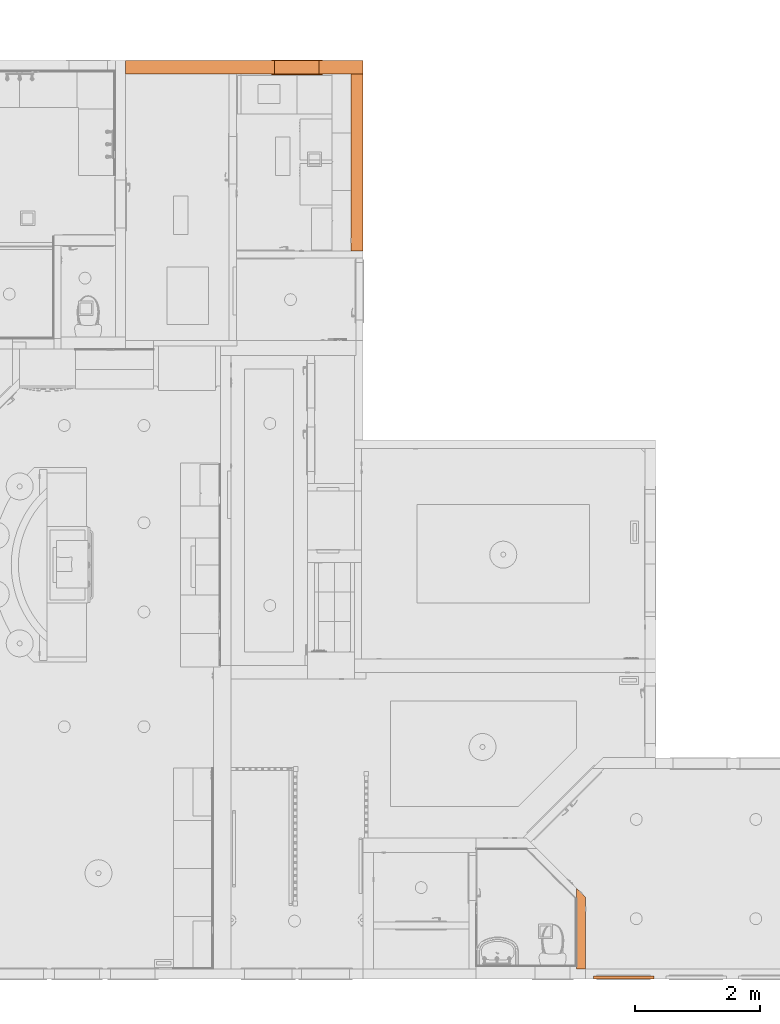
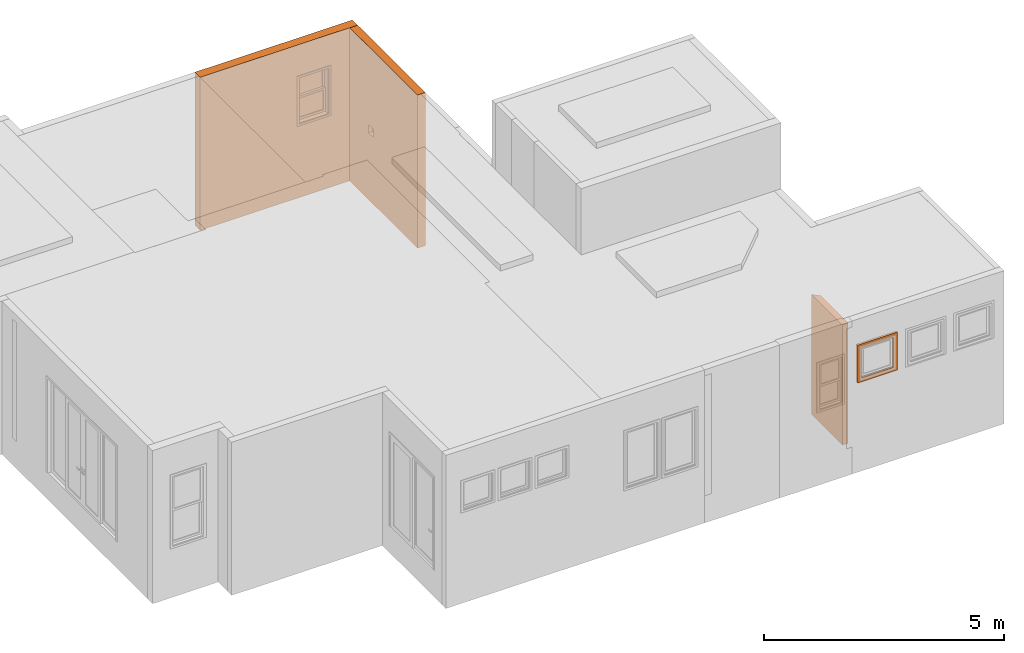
# One storey, part 98 of 103: 5 proxies.
"""IFC2X3 building model written with IfcOpenShell, lengths in inches."""

from ifc_helpers import new_model, entity, si_unit, converted_unit, derived_unit, money_unit, direction, frame, origin_with_axes, place, context, subcontext, project, spatial, faceted_brep, material, type_object, element, save


model = new_model("IFC2X3")

# Units and contexts
model_context = context("Model", 3, precision=0.00039370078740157, world=origin_with_axes(), true_north=direction((0.0, 1.0)))
plan_context = context("Plan", 3, precision=0.00039370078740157, world=origin_with_axes(), true_north=direction((0.0, 1.0)))
body_context = subcontext(model_context, "Body", "Model", "MODEL_VIEW")
ifc_project = project(units=[converted_unit("LENGTHUNIT", "INCH", entity("IfcPositiveLengthMeasure", 0.0254), si_unit("LENGTHUNIT", "METRE"), dimensions=[1, 0, 0, 0, 0, 0, 0]), converted_unit("AREAUNIT", "SQUARE_FOOT", entity("IfcPositiveLengthMeasure", 0.09290304), si_unit("AREAUNIT", "SQUARE_METRE"), dimensions=[2, 0, 0, 0, 0, 0, 0]), si_unit("PLANEANGLEUNIT", "RADIAN"), si_unit("SOLIDANGLEUNIT", "STERADIAN"), money_unit("USD"), converted_unit("TIMEUNIT", "Year", entity("IfcTimeMeasure", 31557600.0), si_unit("TIMEUNIT", "SECOND"), dimensions=[0, 0, 1, 0, 0, 0, 0]), si_unit("MASSUNIT", "GRAM", prefix="KILO"), si_unit("THERMODYNAMICTEMPERATUREUNIT", "DEGREE_CELSIUS"), si_unit("LUMINOUSINTENSITYUNIT", "LUMEN"), si_unit("ENERGYUNIT", "JOULE", prefix="MEGA"), derived_unit("SPECIFICHEATCAPACITYUNIT", [(si_unit("ENERGYUNIT", "JOULE"), 1), (si_unit("MASSUNIT", "GRAM", prefix="KILO"), -1), (si_unit("THERMODYNAMICTEMPERATUREUNIT", "KELVIN"), -1)])], contexts=[model_context, plan_context])

# Site, building, storey
site_placement = place(None, origin_with_axes())
site = spatial("IfcSite", under=ifc_project, at=site_placement, Name="Site", CompositionType="ELEMENT")
building_placement = place(site_placement, origin_with_axes())
building = spatial("IfcBuilding", under=site, at=building_placement, Name="Building", CompositionType="ELEMENT")
storey_placement = place(building_placement, frame((0.0, 0.0, 127.9999999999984), z_axis=(0.0, 0.0, 1.0), x_axis=(1.0, 0.0, 0.0)))
storey = spatial("IfcBuildingStorey", under=building, at=storey_placement, Name="Second Floor", CompositionType="ELEMENT", Elevation=128.0)

# Proxies
ifc_material = material(Name="Generic - Structural")
building_element_proxy_type_1 = type_object("IfcBuildingElementProxyType", Name="Generic - Structural 2\"", PredefinedType="NOTDEFINED")
proxy_1_placement = place(storey_placement, frame((426.9999994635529, 1.999999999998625, 61.99999999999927), z_axis=(0.0, 0.0, 1.0), x_axis=(-1.0, 0.0, 0.0)))
element("IfcBuildingElementProxy", 1, at=proxy_1_placement, inside=storey, type_object=building_element_proxy_type_1, material=ifc_material, Name="SW - 076", context=body_context, shape_type="Brep", body=[
    faceted_brep([(37.99999946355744, 1.999999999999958, 37.99999999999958), (37.99999946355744, 1.999999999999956, 0.0), (0.0, 1.999999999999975, 0.0), (0.0, 1.999999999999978, 37.99999999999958), (33.99999999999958, 1.999999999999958, 3.999999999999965), (33.99999999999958, 1.99999999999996, 33.99999999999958), (3.99999999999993, 1.999999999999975, 33.99999999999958), (3.99999999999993, 1.999999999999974, 3.999999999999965), (37.99999946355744, 0.0, 37.99999999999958), (37.99999946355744, 0.0, 0.0), (0.0, 0.0, 0.0), (0.0, 0.0, 37.99999999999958), (33.99999999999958, 0.0, 3.999999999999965), (33.99999999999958, 0.0, 33.99999999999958), (3.99999999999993, 0.0, 33.99999999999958), (3.99999999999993, 0.0, 3.999999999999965)], [[[0, 1, 2, 3], [4, 5, 6, 7]], [[8, 9, 1, 0]], [[1, 9, 10, 2]], [[11, 3, 2, 10]], [[8, 0, 3, 11]], [[12, 13, 5, 4]], [[13, 14, 6, 5]], [[14, 15, 7, 6]], [[15, 12, 4, 7]], [[9, 8, 11, 10], [12, 15, 14, 13]]]),
])
building_element_proxy_type_2 = type_object("IfcBuildingElementProxyType", Name="Generic - Structural 7 1/2\"", PredefinedType="NOTDEFINED")
proxy_2_placement = place(storey_placement, frame((236.9999999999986, 568.0000000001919, -26.99999999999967), z_axis=(0.0, 0.0, 1.0), x_axis=(0.0, -1.0, 0.0)))
element("IfcBuildingElementProxy", 2, at=proxy_2_placement, inside=storey, type_object=building_element_proxy_type_2, material=ifc_material, Name="SW - 130", context=body_context, shape_type="Brep", body=[
    faceted_brep([(111.0000000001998, 7.500000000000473, 152.9999999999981), (111.0000000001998, 0.0, 152.9999999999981), (111.0000000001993, 0.0, 146.9999999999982), (111.0000000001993, 0.0, 26.99999999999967), (111.0000000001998, 0.0, 0.0), (111.0000000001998, 7.500000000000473, 0.0), (111.0000000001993, 7.499999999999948, 26.99999999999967), (111.0000000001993, 7.499999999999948, 146.9999999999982), (0.0, 7.499999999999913, 152.9999999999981), (0.0, 0.0, 152.9999999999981), (0.0, 0.0, 0.0), (30.99999999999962, 0.0, 66.99999999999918), (30.99999999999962, 0.0, 74.99999999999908), (38.99999999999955, 0.0, 74.99999999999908), (38.99999999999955, 0.0, 66.99999999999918), (0.0, 7.499999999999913, 0.0), (30.99999999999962, 2.999999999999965, 66.99999999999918), (30.99999999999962, 2.999999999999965, 74.99999999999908), (38.99999999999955, 2.999999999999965, 74.99999999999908), (38.99999999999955, 2.999999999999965, 66.99999999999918)], [[[0, 1, 2, 3, 4, 5, 6, 7]], [[1, 0, 8, 9]], [[10, 4, 3, 2, 1, 9], [11, 12, 13, 14]], [[5, 4, 10, 15]], [[8, 0, 7, 6, 5, 15]], [[8, 15, 10, 9]], [[11, 16, 17, 12]], [[12, 17, 18, 13]], [[13, 18, 19, 14]], [[14, 19, 16, 11]], [[18, 17, 16, 19]]]),
])
building_element_proxy_type_3 = type_object("IfcBuildingElementProxyType", Name="Generic - Structural 8 1/2\"", PredefinedType="NOTDEFINED")
proxy_3_placement = place(storey_placement, frame((95.50000608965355, 568.0000000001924, -26.99999999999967), z_axis=(0.0, 0.0, 1.0), x_axis=(1.0, 0.0, 0.0)))
element("IfcBuildingElementProxy", 3, at=proxy_3_placement, inside=storey, type_object=building_element_proxy_type_3, material=ifc_material, Name="SW - 129", context=body_context, shape_type="Brep", body=[
    faceted_brep([(-6.08965361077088e-06, 0.0, 26.99999999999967), (0.0, 0.0, 0.0), (148.999993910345, 0.0, 0.0), (148.999993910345, 0.0, 152.9999999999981), (0.0, 0.0, 152.9999999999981), (-6.08965361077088e-06, 0.0, 146.4999999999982), (93.49999745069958, 0.0, 73.9999999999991), (93.49999745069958, 0.0, 119.9999999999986), (121.4999974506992, 0.0, 119.9999999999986), (121.4999974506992, 0.0, 73.9999999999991), (0.0, 8.499999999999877, 152.9999999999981), (0.0, 8.499999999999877, 0.0), (148.999993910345, 8.499999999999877, 0.0), (148.999993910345, 8.499999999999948, 152.9999999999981), (93.49999745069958, 8.499999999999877, 73.9999999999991), (93.49999745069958, 8.499999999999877, 119.9999999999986), (121.4999974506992, 8.499999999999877, 119.9999999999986), (121.4999974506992, 8.499999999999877, 73.9999999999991)], [[[0, 1, 2, 3, 4, 5], [6, 7, 8, 9]], [[5, 4, 10, 11, 1, 0]], [[12, 2, 1, 11]], [[3, 2, 12, 13]], [[3, 13, 10, 4]], [[14, 15, 7, 6]], [[15, 16, 8, 7]], [[16, 17, 9, 8]], [[17, 14, 6, 9]], [[11, 10, 13, 12], [14, 17, 16, 15]]]),
])
building_element_proxy_type_4 = type_object("IfcBuildingElementProxyType", Name="W Double Hung", PredefinedType="NOTDEFINED")
proxy_4_placement = place(storey_placement, frame((217.0000035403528, 568.0000000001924, 46.99999999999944), z_axis=(0.0, 0.0, 1.0), x_axis=(-1.0, 0.0, 0.0)))
element("IfcBuildingElementProxy", 4, at=proxy_4_placement, inside=storey, type_object=building_element_proxy_type_4, Name="WD - 002", context=body_context, shape_type="Brep", body=[
    faceted_brep([(27.99999999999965, -3.99999999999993, 0.0), (0.0, -3.99999999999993, 0.0), (0.0, 0.0, 0.0), (27.99999999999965, 0.0, 0.0), (27.99999999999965, -3.99999999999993, 45.99999999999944), (0.0, -3.99999999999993, 45.99999999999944), (27.49999999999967, -3.99999999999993, 0.4999999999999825), (0.4999999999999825, -3.99999999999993, 0.4999999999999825), (0.4999999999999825, -3.99999999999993, 45.49999999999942), (27.49999999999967, -3.99999999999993, 45.49999999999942), (0.0, 0.0, 45.99999999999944), (27.99999999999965, 0.0, 45.99999999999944), (27.49999999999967, 0.0, 0.4999999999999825), (27.49999999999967, 0.0, 45.49999999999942), (0.4999999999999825, 0.0, 45.49999999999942), (0.4999999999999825, 0.0, 0.4999999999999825)], [[[0, 1, 2, 3]], [[0, 4, 5, 1], [6, 7, 8, 9]], [[1, 5, 10, 2]], [[3, 2, 10, 11], [12, 13, 14, 15]], [[4, 0, 3, 11]], [[5, 4, 11, 10]], [[7, 6, 12, 15]], [[8, 7, 15, 14]], [[9, 8, 14, 13]], [[6, 9, 13, 12]]]),
    faceted_brep([(29.99999999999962, 0.5000000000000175, -1.999999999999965), (29.99999999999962, 0.0, -1.999999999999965), (27.99999999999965, 0.0, 0.0), (27.99999999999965, 0.5000000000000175, 0.0), (29.99999999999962, 0.5000000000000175, 47.9999999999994), (29.99999999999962, 0.0, 47.9999999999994), (27.99999999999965, 0.0, 45.99999999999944), (27.99999999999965, 0.5000000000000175, 45.99999999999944)], [[[0, 1, 2, 3]], [[4, 5, 1, 0]], [[1, 5, 6, 2]], [[3, 2, 6, 7]], [[0, 3, 7, 4]], [[7, 6, 5, 4]]]),
    faceted_brep([(-1.999999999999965, 0.5000000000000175, 47.9999999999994), (-1.999999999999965, 0.0, 47.9999999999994), (0.0, 0.0, 45.99999999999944), (0.0, 0.5000000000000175, 45.99999999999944), (-1.999999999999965, 0.5000000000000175, -1.999999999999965), (-1.999999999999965, 0.0, -1.999999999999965), (0.0, 0.0, 0.0), (0.0, 0.5000000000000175, 0.0)], [[[0, 1, 2, 3]], [[4, 5, 1, 0]], [[1, 5, 6, 2]], [[3, 2, 6, 7]], [[0, 3, 7, 4]], [[7, 6, 5, 4]]]),
    faceted_brep([(-1.999999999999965, 0.5000000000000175, -1.999999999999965), (-1.999999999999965, 0.0, -1.999999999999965), (0.0, 0.0, 0.0), (0.0, 0.5000000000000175, 0.0), (29.99999999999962, 0.5000000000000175, -1.999999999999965), (29.99999999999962, 0.0, -1.999999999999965), (27.99999999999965, 0.0, 0.0), (27.99999999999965, 0.5000000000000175, 0.0)], [[[0, 1, 2, 3]], [[4, 5, 1, 0]], [[1, 5, 6, 2]], [[3, 2, 6, 7]], [[0, 3, 7, 4]], [[7, 6, 5, 4]]]),
    faceted_brep([(29.99999999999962, 0.5000000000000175, 47.9999999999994), (29.99999999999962, 0.0, 47.9999999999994), (27.99999999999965, 0.0, 45.99999999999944), (27.99999999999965, 0.5000000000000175, 45.99999999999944), (-1.999999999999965, 0.5000000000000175, 47.9999999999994), (-1.999999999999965, 0.0, 47.9999999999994), (0.0, 0.0, 45.99999999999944), (0.0, 0.5000000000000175, 45.99999999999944)], [[[0, 1, 2, 3]], [[4, 5, 1, 0]], [[1, 5, 6, 2]], [[3, 2, 6, 7]], [[0, 3, 7, 4]], [[7, 6, 5, 4]]]),
    faceted_brep([(29.99999999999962, -8.999999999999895, -1.999999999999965), (27.99999999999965, -8.999999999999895, 0.0), (27.99999999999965, -8.499999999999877, 0.0), (29.99999999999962, -8.499999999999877, -1.999999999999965), (29.99999999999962, -8.999999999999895, 47.9999999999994), (27.99999999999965, -8.999999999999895, 45.99999999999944), (27.99999999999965, -8.499999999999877, 45.99999999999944), (29.99999999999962, -8.499999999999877, 47.9999999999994)], [[[0, 1, 2, 3]], [[0, 4, 5, 1]], [[1, 5, 6, 2]], [[3, 2, 6, 7]], [[4, 0, 3, 7]], [[5, 4, 7, 6]]]),
    faceted_brep([(-1.999999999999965, -8.999999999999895, 47.9999999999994), (0.0, -8.999999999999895, 45.99999999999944), (0.0, -8.499999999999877, 45.99999999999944), (-1.999999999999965, -8.499999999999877, 47.9999999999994), (-1.999999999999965, -8.999999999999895, -1.999999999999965), (0.0, -8.999999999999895, 0.0), (0.0, -8.499999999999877, 0.0), (-1.999999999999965, -8.499999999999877, -1.999999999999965)], [[[0, 1, 2, 3]], [[0, 4, 5, 1]], [[1, 5, 6, 2]], [[3, 2, 6, 7]], [[4, 0, 3, 7]], [[5, 4, 7, 6]]]),
    faceted_brep([(-1.999999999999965, -8.999999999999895, -1.999999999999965), (0.0, -8.999999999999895, 0.0), (0.0, -8.499999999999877, 0.0), (-1.999999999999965, -8.499999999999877, -1.999999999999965), (29.99999999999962, -8.999999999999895, -1.999999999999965), (27.99999999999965, -8.999999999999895, 0.0), (27.99999999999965, -8.499999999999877, 0.0), (29.99999999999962, -8.499999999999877, -1.999999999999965)], [[[0, 1, 2, 3]], [[0, 4, 5, 1]], [[1, 5, 6, 2]], [[3, 2, 6, 7]], [[4, 0, 3, 7]], [[5, 4, 7, 6]]]),
    faceted_brep([(29.99999999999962, -8.999999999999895, 47.9999999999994), (27.99999999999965, -8.999999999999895, 45.99999999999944), (27.99999999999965, -8.499999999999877, 45.99999999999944), (29.99999999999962, -8.499999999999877, 47.9999999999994), (-1.999999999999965, -8.999999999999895, 47.9999999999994), (0.0, -8.999999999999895, 45.99999999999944), (0.0, -8.499999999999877, 45.99999999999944), (-1.999999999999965, -8.499999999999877, 47.9999999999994)], [[[0, 1, 2, 3]], [[0, 4, 5, 1]], [[1, 5, 6, 2]], [[3, 2, 6, 7]], [[4, 0, 3, 7]], [[5, 4, 7, 6]]]),
    faceted_brep([(27.50039370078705, -8.499999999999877, 0.7539370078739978), (27.99999999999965, -8.499999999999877, 0.7539370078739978), (27.99999999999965, -8.499999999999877, 45.49606299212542), (27.50039370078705, -8.499999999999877, 45.49606299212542), (27.50039370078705, -3.99999999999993, 0.7539370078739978), (27.99999999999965, -3.99999999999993, 0.7539370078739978), (27.99999999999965, -3.99999999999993, 45.49606299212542), (27.50039370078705, -3.99999999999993, 45.49606299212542)], [[[0, 1, 2, 3]], [[4, 5, 1, 0]], [[6, 2, 1, 5]], [[3, 2, 6, 7]], [[7, 4, 0, 3]], [[7, 6, 5, 4]]]),
    faceted_brep([(0.4996062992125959, -3.99999999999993, 45.49606299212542), (0.0, -3.99999999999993, 45.49606299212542), (0.0, -8.499999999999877, 45.49606299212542), (0.4996062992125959, -8.499999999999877, 45.49606299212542), (0.4996062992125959, -3.99999999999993, 0.7539370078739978), (0.0, -3.99999999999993, 0.7539370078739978), (0.0, -8.499999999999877, 0.7539370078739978), (0.4996062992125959, -8.499999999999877, 0.7539370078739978)], [[[0, 1, 2, 3]], [[4, 5, 1, 0]], [[5, 6, 2, 1]], [[3, 2, 6, 7]], [[7, 4, 0, 3]], [[7, 6, 5, 4]]]),
    faceted_brep([(0.4996062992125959, -3.99999999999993, 0.7539370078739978), (0.0, -3.99999999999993, 0.7539370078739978), (0.0, -8.499999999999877, 0.7539370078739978), (0.4996062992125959, -8.499999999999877, 0.7539370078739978), (0.4996062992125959, -3.99999999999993, 0.7496062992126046), (27.50039370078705, -3.99999999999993, 0.7496062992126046), (27.50039370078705, -3.99999999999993, 0.7539370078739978), (27.99999999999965, -3.99999999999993, 0.7539370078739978), (27.99999999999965, -3.99999999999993, 0.0), (0.0, -3.99999999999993, 0.0), (0.0, -8.499999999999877, 0.0), (27.50039370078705, -8.499999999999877, 0.7496062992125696), (0.4996062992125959, -8.499999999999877, 0.7496062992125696), (27.99999999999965, -8.499999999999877, 0.0), (27.99999999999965, -8.499999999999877, 0.7539370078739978), (27.50039370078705, -8.499999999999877, 0.7539370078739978)], [[[0, 1, 2, 3]], [[4, 5, 6, 7, 8, 9, 1, 0]], [[9, 10, 2, 1]], [[11, 12, 3, 2, 10, 13, 14, 15]], [[12, 4, 0, 3]], [[11, 5, 4, 12]], [[6, 5, 11, 15]], [[15, 14, 7, 6]], [[7, 14, 13, 8]], [[8, 13, 10, 9]]]),
    faceted_brep([(27.50039370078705, -8.499999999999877, 45.49606299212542), (27.99999999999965, -8.499999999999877, 45.49606299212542), (27.99999999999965, -8.499999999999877, 45.99999999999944), (0.0, -8.499999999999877, 45.99999999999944), (0.0, -8.499999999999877, 45.49606299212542), (0.4996062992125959, -8.499999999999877, 45.49606299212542), (0.4996062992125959, -8.499999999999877, 45.50039370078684), (27.50039370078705, -8.499999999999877, 45.50039370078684), (27.50039370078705, -3.99999999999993, 45.49606299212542), (27.99999999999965, -3.99999999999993, 45.49606299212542), (27.99999999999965, -3.99999999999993, 45.99999999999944), (0.0, -3.99999999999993, 45.99999999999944), (0.0, -3.99999999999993, 45.49606299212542), (0.4996062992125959, -3.99999999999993, 45.49606299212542), (0.4996062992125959, -3.99999999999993, 45.50039370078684), (27.50039370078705, -3.99999999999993, 45.50039370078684)], [[[0, 1, 2, 3, 4, 5, 6, 7]], [[8, 9, 1, 0]], [[10, 2, 1, 9]], [[11, 3, 2, 10]], [[12, 4, 3, 11]], [[5, 4, 12, 13]], [[5, 13, 14, 6]], [[6, 14, 15, 7]], [[7, 15, 8, 0]], [[15, 14, 13, 12, 11, 10, 9, 8]]]),
    faceted_brep([(25.49999999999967, -3.99999999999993, 2.749999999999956), (25.49999999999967, -4.874999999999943, 2.749999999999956), (25.49999999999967, -4.874999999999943, 22.12499999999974), (25.49999999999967, -3.99999999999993, 22.12499999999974), (27.49999999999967, -3.99999999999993, 2.749999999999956), (27.49999999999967, -4.874999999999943, 2.749999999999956), (27.49999999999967, -4.874999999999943, 22.12499999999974), (27.49999999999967, -3.99999999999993, 22.12499999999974)], [[[0, 1, 2, 3]], [[4, 5, 1, 0]], [[1, 5, 6, 2]], [[3, 2, 6, 7]], [[0, 3, 7, 4]], [[7, 6, 5, 4]]]),
    faceted_brep([(0.4999999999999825, -3.99999999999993, 2.749999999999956), (0.4999999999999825, -4.874999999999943, 2.749999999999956), (0.4999999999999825, -4.874999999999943, 22.12499999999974), (0.4999999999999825, -3.99999999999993, 22.12499999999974), (2.499999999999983, -3.99999999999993, 2.749999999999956), (2.499999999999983, -4.874999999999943, 2.749999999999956), (2.499999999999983, -4.874999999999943, 22.12499999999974), (2.499999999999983, -3.99999999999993, 22.12499999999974)], [[[0, 1, 2, 3]], [[4, 5, 1, 0]], [[1, 5, 6, 2]], [[3, 2, 6, 7]], [[0, 3, 7, 4]], [[7, 6, 5, 4]]]),
    faceted_brep([(0.4999999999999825, -3.99999999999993, 0.7499999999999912), (0.4999999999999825, -4.874999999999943, 0.7499999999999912), (0.4999999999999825, -4.874999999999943, 2.749999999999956), (0.4999999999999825, -3.99999999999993, 2.749999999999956), (27.49999999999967, -3.99999999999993, 0.7499999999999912), (27.49999999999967, -4.874999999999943, 0.7499999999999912), (27.49999999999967, -4.874999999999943, 2.749999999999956), (25.49999999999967, -4.874999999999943, 2.749999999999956), (14.99999999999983, -4.874999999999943, 2.749999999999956), (12.99999999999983, -4.874999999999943, 2.749999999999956), (2.499999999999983, -4.874999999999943, 2.749999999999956), (2.499999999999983, -3.99999999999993, 2.749999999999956), (12.99999999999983, -3.99999999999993, 2.749999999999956), (14.99999999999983, -3.99999999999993, 2.749999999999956), (25.49999999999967, -3.99999999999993, 2.749999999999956), (27.49999999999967, -3.99999999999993, 2.749999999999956)], [[[0, 1, 2, 3]], [[4, 5, 1, 0]], [[1, 5, 6, 7, 8, 9, 10, 2]], [[3, 2, 10, 11]], [[0, 3, 11, 12, 13, 14, 15, 4]], [[15, 6, 5, 4]], [[14, 7, 6, 15]], [[13, 8, 7, 14]], [[12, 9, 8, 13]], [[11, 10, 9, 12]]]),
    faceted_brep([(27.49999999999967, -3.99999999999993, 24.12499999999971), (27.49999999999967, -4.874999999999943, 24.12499999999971), (27.49999999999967, -4.874999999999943, 22.12499999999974), (27.49999999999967, -3.99999999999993, 22.12499999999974), (0.4999999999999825, -3.99999999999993, 24.12499999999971), (0.4999999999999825, -4.874999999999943, 24.12499999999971), (0.4999999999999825, -4.874999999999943, 22.12499999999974), (2.499999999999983, -4.874999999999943, 22.12499999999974), (12.99999999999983, -4.874999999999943, 22.12499999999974), (14.99999999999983, -4.874999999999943, 22.12499999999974), (25.49999999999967, -4.874999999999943, 22.12499999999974), (25.49999999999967, -3.99999999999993, 22.12499999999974), (14.99999999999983, -3.99999999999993, 22.12499999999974), (12.99999999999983, -3.99999999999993, 22.12499999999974), (2.499999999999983, -3.99999999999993, 22.12499999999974), (0.4999999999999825, -3.99999999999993, 22.12499999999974)], [[[0, 1, 2, 3]], [[4, 5, 1, 0]], [[1, 5, 6, 7, 8, 9, 10, 2]], [[3, 2, 10, 11]], [[0, 3, 11, 12, 13, 14, 15, 4]], [[15, 6, 5, 4]], [[14, 7, 6, 15]], [[13, 8, 7, 14]], [[12, 9, 8, 13]], [[11, 10, 9, 12]]]),
    faceted_brep([(25.49999999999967, -4.874999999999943, 2.749999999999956), (25.49999999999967, -5.749999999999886, 2.749999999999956), (25.49999999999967, -5.749999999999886, 22.12499999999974), (25.49999999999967, -4.874999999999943, 22.12499999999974), (27.49999999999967, -4.874999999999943, 2.749999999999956), (27.49999999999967, -5.749999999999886, 2.749999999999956), (27.49999999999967, -5.749999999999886, 22.12499999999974), (27.49999999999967, -4.874999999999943, 22.12499999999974)], [[[0, 1, 2, 3]], [[4, 5, 1, 0]], [[1, 5, 6, 2]], [[3, 2, 6, 7]], [[0, 3, 7, 4]], [[7, 6, 5, 4]]]),
    faceted_brep([(0.4999999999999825, -4.874999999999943, 2.749999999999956), (0.4999999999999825, -5.749999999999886, 2.749999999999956), (0.4999999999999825, -5.749999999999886, 22.12499999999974), (0.4999999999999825, -4.874999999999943, 22.12499999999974), (2.499999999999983, -4.874999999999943, 2.749999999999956), (2.499999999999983, -5.749999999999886, 2.749999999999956), (2.499999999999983, -5.749999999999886, 22.12499999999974), (2.499999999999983, -4.874999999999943, 22.12499999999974)], [[[0, 1, 2, 3]], [[4, 5, 1, 0]], [[1, 5, 6, 2]], [[3, 2, 6, 7]], [[0, 3, 7, 4]], [[7, 6, 5, 4]]]),
    faceted_brep([(0.4999999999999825, -4.874999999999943, 0.7499999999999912), (0.4999999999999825, -5.749999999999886, 0.7499999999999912), (0.4999999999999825, -5.749999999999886, 2.749999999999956), (0.4999999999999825, -4.874999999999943, 2.749999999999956), (27.49999999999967, -4.874999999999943, 0.7499999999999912), (27.49999999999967, -5.749999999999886, 0.7499999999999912), (27.49999999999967, -5.749999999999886, 2.749999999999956), (25.49999999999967, -5.749999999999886, 2.749999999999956), (14.99999999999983, -5.749999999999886, 2.749999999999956), (12.99999999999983, -5.749999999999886, 2.749999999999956), (2.499999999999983, -5.749999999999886, 2.749999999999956), (2.499999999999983, -4.874999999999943, 2.749999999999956), (12.99999999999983, -4.874999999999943, 2.749999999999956), (14.99999999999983, -4.874999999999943, 2.749999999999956), (25.49999999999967, -4.874999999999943, 2.749999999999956), (27.49999999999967, -4.874999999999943, 2.749999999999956)], [[[0, 1, 2, 3]], [[4, 5, 1, 0]], [[1, 5, 6, 7, 8, 9, 10, 2]], [[3, 2, 10, 11]], [[0, 3, 11, 12, 13, 14, 15, 4]], [[15, 6, 5, 4]], [[14, 7, 6, 15]], [[13, 8, 7, 14]], [[12, 9, 8, 13]], [[11, 10, 9, 12]]]),
    faceted_brep([(27.49999999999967, -4.874999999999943, 24.12499999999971), (27.49999999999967, -5.749999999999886, 24.12499999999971), (27.49999999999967, -5.749999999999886, 22.12499999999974), (27.49999999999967, -4.874999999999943, 22.12499999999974), (0.4999999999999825, -4.874999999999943, 24.12499999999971), (0.4999999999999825, -5.749999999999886, 24.12499999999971), (0.4999999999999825, -5.749999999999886, 22.12499999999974), (2.499999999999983, -5.749999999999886, 22.12499999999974), (12.99999999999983, -5.749999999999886, 22.12499999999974), (14.99999999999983, -5.749999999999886, 22.12499999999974), (25.49999999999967, -5.749999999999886, 22.12499999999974), (25.49999999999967, -4.874999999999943, 22.12499999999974), (14.99999999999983, -4.874999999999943, 22.12499999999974), (12.99999999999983, -4.874999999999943, 22.12499999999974), (2.499999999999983, -4.874999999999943, 22.12499999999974), (0.4999999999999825, -4.874999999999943, 22.12499999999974)], [[[0, 1, 2, 3]], [[4, 5, 1, 0]], [[1, 5, 6, 7, 8, 9, 10, 2]], [[3, 2, 10, 11]], [[0, 3, 11, 12, 13, 14, 15, 4]], [[15, 6, 5, 4]], [[14, 7, 6, 15]], [[13, 8, 7, 14]], [[12, 9, 8, 13]], [[11, 10, 9, 12]]]),
    faceted_brep([(25.49999999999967, -4.749999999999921, 2.749999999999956), (25.49999999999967, -4.999999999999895, 2.749999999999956), (2.499999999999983, -4.999999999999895, 2.749999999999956), (2.499999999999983, -4.749999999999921, 2.749999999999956), (25.49999999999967, -4.749999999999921, 22.12499999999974), (25.49999999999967, -4.999999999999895, 22.12499999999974), (2.499999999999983, -4.999999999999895, 22.12499999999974), (2.499999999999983, -4.749999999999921, 22.12499999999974)], [[[0, 1, 2, 3]], [[4, 5, 1, 0]], [[1, 5, 6, 2]], [[3, 2, 6, 7]], [[0, 3, 7, 4]], [[7, 6, 5, 4]]]),
    faceted_brep([(25.49999999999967, -5.749999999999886, 24.12499999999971), (25.49999999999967, -6.6249999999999, 24.12499999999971), (25.49999999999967, -6.6249999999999, 43.49999999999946), (25.49999999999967, -5.749999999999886, 43.49999999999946), (27.49999999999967, -5.749999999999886, 24.12499999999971), (27.49999999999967, -6.6249999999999, 24.12499999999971), (27.49999999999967, -6.6249999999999, 43.49999999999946), (27.49999999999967, -5.749999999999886, 43.49999999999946)], [[[0, 1, 2, 3]], [[4, 5, 1, 0]], [[1, 5, 6, 2]], [[3, 2, 6, 7]], [[0, 3, 7, 4]], [[7, 6, 5, 4]]]),
    faceted_brep([(0.4999999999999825, -5.749999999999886, 24.12499999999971), (0.4999999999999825, -6.6249999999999, 24.12499999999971), (0.4999999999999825, -6.6249999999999, 43.49999999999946), (0.4999999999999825, -5.749999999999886, 43.49999999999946), (2.499999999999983, -5.749999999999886, 24.12499999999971), (2.499999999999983, -6.6249999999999, 24.12499999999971), (2.499999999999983, -6.6249999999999, 43.49999999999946), (2.499999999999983, -5.749999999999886, 43.49999999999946)], [[[0, 1, 2, 3]], [[4, 5, 1, 0]], [[1, 5, 6, 2]], [[3, 2, 6, 7]], [[0, 3, 7, 4]], [[7, 6, 5, 4]]]),
    faceted_brep([(0.4999999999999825, -5.749999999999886, 22.12499999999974), (0.4999999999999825, -6.6249999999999, 22.12499999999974), (0.4999999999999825, -6.6249999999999, 24.12499999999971), (0.4999999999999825, -5.749999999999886, 24.12499999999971), (27.49999999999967, -5.749999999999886, 22.12499999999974), (27.49999999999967, -6.6249999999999, 22.12499999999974), (27.49999999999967, -6.6249999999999, 24.12499999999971), (25.49999999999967, -6.6249999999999, 24.12499999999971), (14.99999999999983, -6.6249999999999, 24.12499999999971), (12.99999999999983, -6.6249999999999, 24.12499999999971), (2.499999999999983, -6.6249999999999, 24.12499999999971), (2.499999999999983, -5.749999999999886, 24.12499999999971), (12.99999999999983, -5.749999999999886, 24.12499999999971), (14.99999999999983, -5.749999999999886, 24.12499999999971), (25.49999999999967, -5.749999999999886, 24.12499999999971), (27.49999999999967, -5.749999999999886, 24.12499999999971)], [[[0, 1, 2, 3]], [[4, 5, 1, 0]], [[1, 5, 6, 7, 8, 9, 10, 2]], [[3, 2, 10, 11]], [[0, 3, 11, 12, 13, 14, 15, 4]], [[15, 6, 5, 4]], [[14, 7, 6, 15]], [[13, 8, 7, 14]], [[12, 9, 8, 13]], [[11, 10, 9, 12]]]),
    faceted_brep([(27.49999999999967, -5.749999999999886, 45.49999999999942), (27.49999999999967, -6.6249999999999, 45.49999999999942), (27.49999999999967, -6.6249999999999, 43.49999999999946), (27.49999999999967, -5.749999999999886, 43.49999999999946), (0.4999999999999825, -5.749999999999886, 45.49999999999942), (0.4999999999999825, -6.6249999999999, 45.49999999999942), (0.4999999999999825, -6.6249999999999, 43.49999999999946), (2.499999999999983, -6.6249999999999, 43.49999999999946), (12.99999999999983, -6.6249999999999, 43.49999999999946), (14.99999999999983, -6.6249999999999, 43.49999999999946), (25.49999999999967, -6.6249999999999, 43.49999999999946), (25.49999999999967, -5.749999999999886, 43.49999999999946), (14.99999999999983, -5.749999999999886, 43.49999999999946), (12.99999999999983, -5.749999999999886, 43.49999999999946), (2.499999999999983, -5.749999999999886, 43.49999999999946), (0.4999999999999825, -5.749999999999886, 43.49999999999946)], [[[0, 1, 2, 3]], [[4, 5, 1, 0]], [[1, 5, 6, 7, 8, 9, 10, 2]], [[3, 2, 10, 11]], [[0, 3, 11, 12, 13, 14, 15, 4]], [[15, 6, 5, 4]], [[14, 7, 6, 15]], [[13, 8, 7, 14]], [[12, 9, 8, 13]], [[11, 10, 9, 12]]]),
    faceted_brep([(25.49999999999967, -6.6249999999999, 24.12499999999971), (25.49999999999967, -7.499999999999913, 24.12499999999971), (25.49999999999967, -7.499999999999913, 43.49999999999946), (25.49999999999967, -6.6249999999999, 43.49999999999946), (27.49999999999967, -6.6249999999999, 24.12499999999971), (27.49999999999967, -7.499999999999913, 24.12499999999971), (27.49999999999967, -7.499999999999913, 43.49999999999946), (27.49999999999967, -6.6249999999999, 43.49999999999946)], [[[0, 1, 2, 3]], [[4, 5, 1, 0]], [[1, 5, 6, 2]], [[3, 2, 6, 7]], [[0, 3, 7, 4]], [[7, 6, 5, 4]]]),
    faceted_brep([(0.4999999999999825, -6.6249999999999, 24.12499999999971), (0.4999999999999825, -7.499999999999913, 24.12499999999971), (0.4999999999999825, -7.499999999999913, 43.49999999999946), (0.4999999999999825, -6.6249999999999, 43.49999999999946), (2.499999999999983, -6.6249999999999, 24.12499999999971), (2.499999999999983, -7.499999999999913, 24.12499999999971), (2.499999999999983, -7.499999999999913, 43.49999999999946), (2.499999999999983, -6.6249999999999, 43.49999999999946)], [[[0, 1, 2, 3]], [[4, 5, 1, 0]], [[1, 5, 6, 2]], [[3, 2, 6, 7]], [[0, 3, 7, 4]], [[7, 6, 5, 4]]]),
    faceted_brep([(0.4999999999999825, -6.6249999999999, 22.12499999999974), (0.4999999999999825, -7.499999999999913, 22.12499999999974), (0.4999999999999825, -7.499999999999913, 24.12499999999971), (0.4999999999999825, -6.6249999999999, 24.12499999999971), (27.49999999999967, -6.6249999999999, 22.12499999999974), (27.49999999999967, -7.499999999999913, 22.12499999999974), (27.49999999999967, -7.499999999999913, 24.12499999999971), (25.49999999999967, -7.499999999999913, 24.12499999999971), (14.99999999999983, -7.499999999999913, 24.12499999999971), (12.99999999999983, -7.499999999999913, 24.12499999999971), (2.499999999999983, -7.499999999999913, 24.12499999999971), (2.499999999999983, -6.6249999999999, 24.12499999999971), (12.99999999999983, -6.6249999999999, 24.12499999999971), (14.99999999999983, -6.6249999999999, 24.12499999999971), (25.49999999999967, -6.6249999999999, 24.12499999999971), (27.49999999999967, -6.6249999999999, 24.12499999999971)], [[[0, 1, 2, 3]], [[4, 5, 1, 0]], [[1, 5, 6, 7, 8, 9, 10, 2]], [[3, 2, 10, 11]], [[0, 3, 11, 12, 13, 14, 15, 4]], [[15, 6, 5, 4]], [[14, 7, 6, 15]], [[13, 8, 7, 14]], [[12, 9, 8, 13]], [[11, 10, 9, 12]]]),
    faceted_brep([(27.49999999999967, -6.6249999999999, 45.49999999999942), (27.49999999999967, -7.499999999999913, 45.49999999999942), (27.49999999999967, -7.499999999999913, 43.49999999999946), (27.49999999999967, -6.6249999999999, 43.49999999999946), (0.4999999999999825, -6.6249999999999, 45.49999999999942), (0.4999999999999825, -7.499999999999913, 45.49999999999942), (0.4999999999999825, -7.499999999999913, 43.49999999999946), (2.499999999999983, -7.499999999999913, 43.49999999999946), (12.99999999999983, -7.499999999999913, 43.49999999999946), (14.99999999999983, -7.499999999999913, 43.49999999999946), (25.49999999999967, -7.499999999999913, 43.49999999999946), (25.49999999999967, -6.6249999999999, 43.49999999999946), (14.99999999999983, -6.6249999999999, 43.49999999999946), (12.99999999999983, -6.6249999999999, 43.49999999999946), (2.499999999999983, -6.6249999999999, 43.49999999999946), (0.4999999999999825, -6.6249999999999, 43.49999999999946)], [[[0, 1, 2, 3]], [[4, 5, 1, 0]], [[1, 5, 6, 7, 8, 9, 10, 2]], [[3, 2, 10, 11]], [[0, 3, 11, 12, 13, 14, 15, 4]], [[15, 6, 5, 4]], [[14, 7, 6, 15]], [[13, 8, 7, 14]], [[12, 9, 8, 13]], [[11, 10, 9, 12]]]),
    faceted_brep([(25.49999999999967, -6.499999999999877, 24.12499999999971), (25.49999999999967, -6.749999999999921, 24.12499999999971), (2.499999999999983, -6.749999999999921, 24.12499999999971), (2.499999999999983, -6.499999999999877, 24.12499999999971), (25.49999999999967, -6.499999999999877, 43.49999999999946), (25.49999999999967, -6.749999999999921, 43.49999999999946), (2.499999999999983, -6.749999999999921, 43.49999999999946), (2.499999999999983, -6.499999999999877, 43.49999999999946)], [[[0, 1, 2, 3]], [[4, 5, 1, 0]], [[1, 5, 6, 2]], [[3, 2, 6, 7]], [[0, 3, 7, 4]], [[7, 6, 5, 4]]]),
])
building_element_proxy_type_5 = type_object("IfcBuildingElementProxyType", Name="Generic - Structural 5 1/2\"", PredefinedType="NOTDEFINED")
proxy_5_placement = place(storey_placement, frame((383.9999999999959, 6.499999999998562, 0.0), z_axis=(0.0, 0.0, 1.0), x_axis=(0.0, 1.0, 0.0)))
element("IfcBuildingElementProxy", 5, at=proxy_5_placement, inside=storey, type_object=building_element_proxy_type_5, material=ifc_material, Name="SW - 077", context=body_context, shape_type="Brep", body=[
    faceted_brep([(50.49999999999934, 5.499999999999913, 119.9999999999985), (0.0, 5.499999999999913, 119.9999999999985), (0.0, 0.0, 119.9999999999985), (44.9999999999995, 0.0, 119.9999999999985), (50.49999999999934, 5.499999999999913, 0.0), (0.0, 5.499999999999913, 0.0), (0.0, 0.0, 0.0), (44.9999999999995, 0.0, 0.0)], [[[0, 1, 2, 3]], [[4, 5, 1, 0]], [[5, 6, 2, 1]], [[3, 2, 6, 7]], [[4, 0, 3, 7]], [[7, 6, 5, 4]]]),
])

save(model, "model.ifc")
